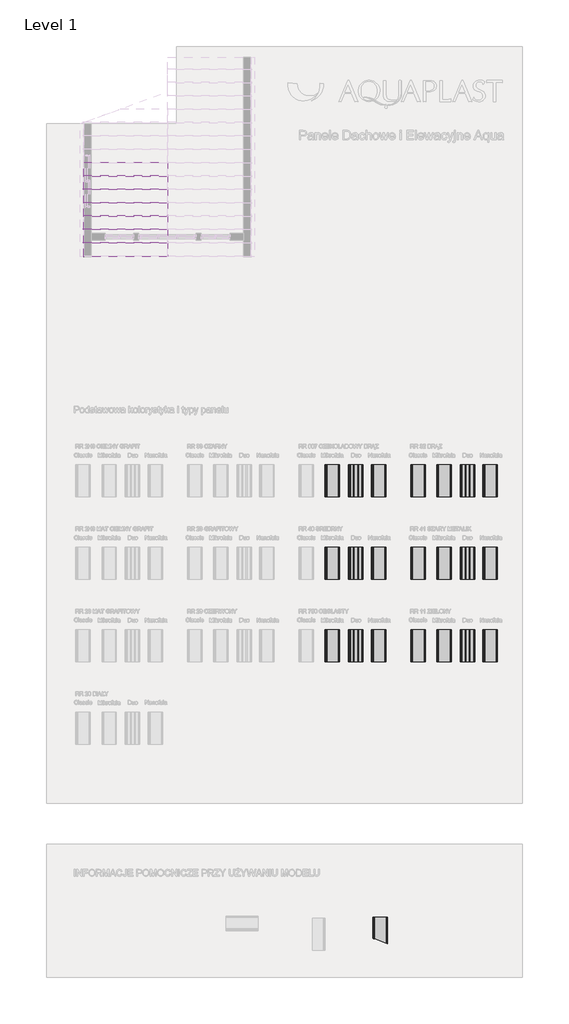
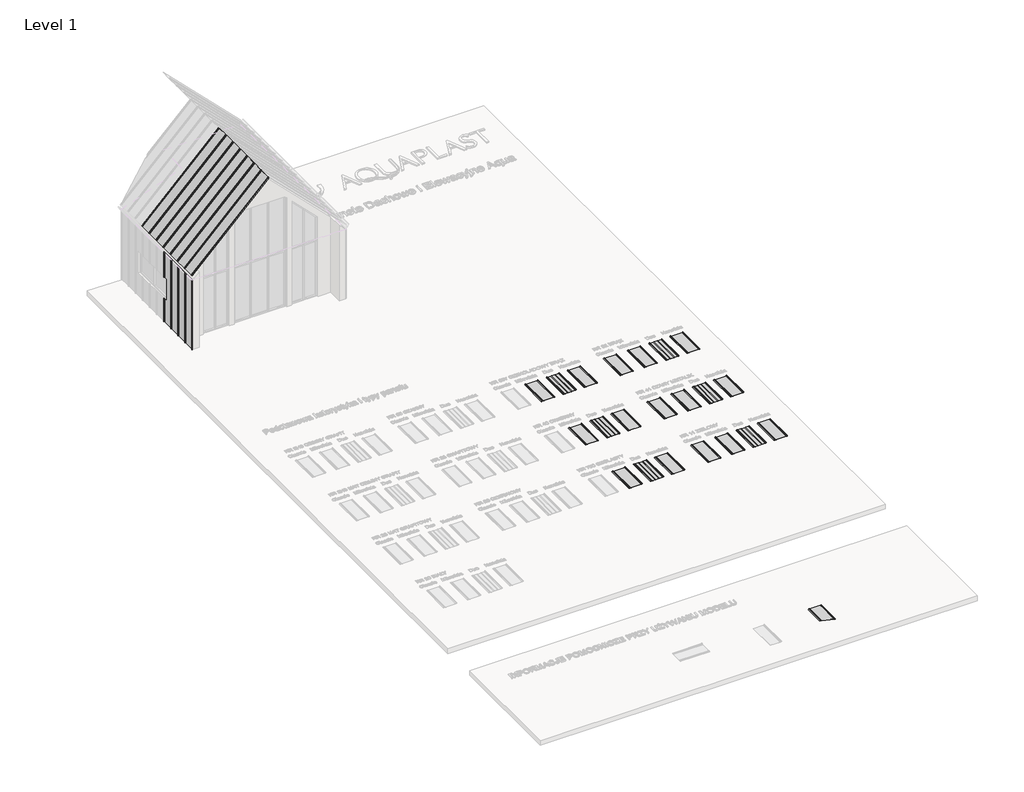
# One storey, part 3 of 22: 33 proxies.
"""IFC4 building model written with IfcOpenShell, lengths in millimetres."""

from ifc_helpers import new_model, si_unit, point, frame, frame_2d, origin, place, context, project, spatial, polyline, circle_curve, ellipse_curve, trimmed, segment, composite_curve, outline, extrude, transform, mapped, element, save
from ifc_brep_helpers import plane_surface, cylinder_surface, revolved_surface, advanced_brep
from components import aqua_8310e829, aqua_0aed9e76, aqua_69495d72, aqua_52c9d04e

model = new_model("IFC4")

# Units and contexts
model_context = context("Model", 3, world=origin())
ifc_project = project(units=[si_unit("LENGTHUNIT", "METRE", prefix="MILLI")], contexts=[model_context])

# Site, building, storey
site = spatial("IfcSite", under=ifc_project)
building = spatial("IfcBuilding", under=site)
storey = spatial("IfcBuildingStorey", under=building, Name="Level 1", Elevation=0.0)

# Proxies
placement = place(None, origin())
element("IfcBuildingElementProxy", 1, Name="AQUAPLAST - Panel Dachowy i Elewacyjny Aqua : Aqua", ObjectType="AQUAPLAST - Panel Dachowy i Elewacyjny Aqua : Aqua", at=placement, inside=storey, context=model_context, shape_type="SolidModel", body=[
    extrude(outline(polyline([(2515.0852627, -16163.9434845), (2947.2853129, -16163.9434845), (2947.2853129, -17144.9233629), (2515.0852627, -16987.6154093), (2515.0852627, -16163.9434845)])), frame((0.0, 0.0, 600.0), z_axis=(0.0, 0.0, 1.0), x_axis=(1.0, 0.0, 0.0)), (0.0, 0.0, 1.0), 0.8),
    advanced_brep(
    [(2947.2853129, -16163.9434845, 600.8), (2947.2853129, -16163.9434845, 600.0), (2947.2853129, -17144.9233629, 600.0), (2947.2853129, -17144.9233629, 600.8), (2986.1819902, -16163.9434845, 624.2006428), (2986.6832739, -16163.9434845, 623.6993591), (2986.6832739, -17159.2630479, 623.6993591), (2986.1819902, -17159.0805956, 624.2006428), (2974.8853129, -16163.9434845, 625.0), (2974.3853129, -16163.9434845, 624.5), (2974.3853129, -17154.7869562, 624.5), (2974.8853129, -17154.9689413, 625.0), (2986.6832739, -16163.9434845, 609.7850119), (2986.1755451, -16163.9434845, 608.9478642), (2986.1755451, -17159.0782498, 608.9478642), (2986.6832739, -17159.2630479, 609.7850119), (2986.7045053, -16163.9434845, 601.8403383), (2986.7045053, -17159.2707755, 601.8403383), (2975.1851476, -16163.9434845, 623.7003195), (2975.1851476, -16163.9434845, 601.2999699), (2974.6852378, -16163.9434845, 600.8000601), (2950.7853129, -16163.9434845, 600.8000601), (2950.7853129, -16163.9434845, 601.6), (2973.8853129, -16163.9434845, 601.6), (2974.3853129, -16163.9434845, 602.1), (2986.8853129, -16163.9434845, 625.0), (2987.3853129, -16163.9434845, 624.5), (2987.3853129, -16163.9434845, 608.8039223), (2986.7045053, -16163.9434845, 608.1289934), (2986.7045053, -16163.9434845, 602.6405793), (2975.6854708, -16163.9434845, 624.2006428), (2950.7853129, -17146.1972587, 601.6), (2973.8853129, -17154.6049711, 601.6), (2950.7853129, -17146.1972587, 600.8000601), (2974.6852378, -17154.8961199, 600.8000601), (2975.1851476, -17155.0780722, 623.7003195), (2975.1851476, -17155.0780722, 601.2999699), (2975.6854708, -17155.260175, 624.2006428), (2986.7045053, -17159.2707755, 602.6405793), (2987.3853129, -17159.5185693, 624.5), (2987.3853129, -17159.5185693, 608.8039223), (2986.8853129, -17159.3365841, 625.0), (2974.3853129, -17154.7869562, 602.1), (2986.7045053, -17159.2707755, 608.1289934)],
    [
        (0, 1),
        (1, 2),
        (2, 3),
        (3, 0),
        (4, 5, circle_curve(frame((2986.1819902, -16163.9434845, 623.6993591), z_axis=(0.0, 1.0, 0.0), x_axis=(-1.0, 0.0, 0.0)), 0.5012837)),
        (5, 6),
        (6, 7, ellipse_curve(frame((2986.1819902, -17159.0805956, 623.6993591), z_axis=(-0.3420201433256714, -0.9396926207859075, 0.0), x_axis=(-0.9396926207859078, 0.3420201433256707, 0.0)), 0.533455, 0.5012837)),
        (7, 4),
        (8, 9, circle_curve(frame((2974.8853129, -16163.9434845, 624.5), z_axis=(0.0, -1.0, 0.0), x_axis=(-1.0, 0.0, 0.0)), 0.5)),
        (9, 10),
        (10, 11, ellipse_curve(frame((2974.8853129, -17154.9689413, 624.5), z_axis=(0.3420201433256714, 0.9396926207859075, 0.0), x_axis=(0.9396926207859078, -0.3420201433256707, 0.0)), 0.5320889, 0.5)),
        (11, 8),
        (12, 13, circle_curve(frame((2985.7392614, -16163.9434845, 609.7850119), z_axis=(0.0, 1.0, 0.0), x_axis=(-1.0, 0.0, 0.0)), 0.9440125)),
        (13, 14),
        (14, 15, ellipse_curve(frame((2985.7392614, -17158.9194555, 609.7850119), z_axis=(-0.3420201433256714, -0.9396926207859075, 0.0), x_axis=(-0.9396926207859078, 0.3420201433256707, 0.0)), 1.0045972, 0.9440125)),
        (15, 12),
        (13, 16, circle_curve(frame((2986.7045053, -16163.9434845, 605.4137846), z_axis=(0.0, -1.0, 0.0), x_axis=(-1.0, 0.0, 0.0)), 3.5734462)),
        (16, 17),
        (17, 14, ellipse_curve(frame((2986.7045053, -17159.2707755, 605.4137846), z_axis=(0.3420201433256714, 0.9396926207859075, 0.0), x_axis=(0.9396926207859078, -0.3420201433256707, 0.0)), 3.802782, 3.5734462)),
        (18, 19),
        (19, 20, circle_curve(frame((2974.6852378, -16163.9434845, 601.2999699), z_axis=(0.0, 1.0, 0.0), x_axis=(-1.0, 0.0, 0.0)), 0.4999098)),
        (20, 21),
        (21, 1),
        (0, 22),
        (22, 23),
        (23, 24, circle_curve(frame((2973.8853129, -16163.9434845, 602.1), z_axis=(0.0, -1.0, 0.0), x_axis=(-1.0, 0.0, 0.0)), 0.5)),
        (24, 9),
        (8, 25),
        (25, 26, circle_curve(frame((2986.8853129, -16163.9434845, 624.5), z_axis=(0.0, 1.0, 0.0), x_axis=(-1.0, 0.0, 0.0)), 0.5)),
        (26, 27),
        (27, 28, circle_curve(frame((2986.7103586, -16163.9434845, 608.8039223), z_axis=(0.0, 1.0, 0.0), x_axis=(-1.0, 0.0, 0.0)), 0.6749543)),
        (28, 29, circle_curve(frame((2986.7045053, -16163.9434845, 605.3847863), z_axis=(0.0, -1.0, 0.0), x_axis=(-1.0, 0.0, 0.0)), 2.7442071)),
        (29, 16),
        (12, 5),
        (4, 30),
        (30, 18, circle_curve(frame((2975.6854708, -16163.9434845, 623.7003195), z_axis=(0.0, -1.0, 0.0), x_axis=(-1.0, 0.0, 0.0)), 0.5003233)),
        (22, 31),
        (31, 32),
        (32, 23),
        (3, 31),
        (21, 33),
        (33, 2),
        (20, 34),
        (34, 33),
        (18, 35),
        (35, 36),
        (36, 19),
        (7, 37),
        (37, 30),
        (15, 6),
        (29, 38),
        (38, 17),
        (26, 39),
        (39, 40),
        (40, 27),
        (11, 41),
        (41, 25),
        (24, 42),
        (42, 10),
        (36, 34, ellipse_curve(frame((2974.6852378, -17154.8961199, 601.2999699), z_axis=(0.3420201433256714, 0.9396926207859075, 0.0), x_axis=(0.9396926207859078, -0.3420201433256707, 0.0)), 0.5319929, 0.4999098)),
        (37, 35, ellipse_curve(frame((2975.6854708, -17155.260175, 623.7003195), z_axis=(-0.3420201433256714, -0.9396926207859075, 0.0), x_axis=(-0.9396926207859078, 0.3420201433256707, 0.0)), 0.5324329, 0.5003233)),
        (41, 39, ellipse_curve(frame((2986.8853129, -17159.3365841, 624.5), z_axis=(0.3420201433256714, 0.9396926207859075, 0.0), x_axis=(0.9396926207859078, -0.3420201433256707, 0.0)), 0.5320889, 0.5)),
        (32, 42, ellipse_curve(frame((2973.8853129, -17154.6049711, 602.1), z_axis=(-0.3420201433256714, -0.9396926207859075, 0.0), x_axis=(-0.9396926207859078, 0.3420201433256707, 0.0)), 0.5320889, 0.5)),
        (28, 43),
        (43, 38, ellipse_curve(frame((2986.7045053, -17159.2707755, 605.3847863), z_axis=(-0.3420201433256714, -0.9396926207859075, 0.0), x_axis=(-0.9396926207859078, 0.3420201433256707, 0.0)), 2.9203242, 2.7442071)),
        (40, 43, ellipse_curve(frame((2986.7103586, -17159.272906, 608.8039223), z_axis=(0.3420201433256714, 0.9396926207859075, 0.0), x_axis=(0.9396926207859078, -0.3420201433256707, 0.0)), 0.7182714, 0.6749543)),
    ],
    [
        plane_surface(frame((2947.2853129, -17363.9434845, 600.8), z_axis=(-1.0, 0.0, 0.0), x_axis=(0.0, 1.0, 0.0))),
        revolved_surface(polyline([(2985.6807065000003, -16163.9434845, 623.6993591), (2985.6807065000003, -17159.26304795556, 623.6993591)]), (2986.1819902, -17363.9434845, 623.6993591), (0.0, 1.0, 0.0)),
        cylinder_surface(frame((2974.8853129, -17363.9434845, 624.5), z_axis=(0.0, -1.0, 0.0), x_axis=(-1.0, 0.0, 0.0)), 0.5),
        revolved_surface(polyline([(2984.7952489, -16163.9434845, 609.7850119), (2984.7952489, -17159.26304797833, 609.7850119)]), (2985.7392614, -17363.9434845, 609.7850119), (0.0, 1.0, 0.0)),
        cylinder_surface(frame((2986.7045053, -17363.9434845, 605.4137846), z_axis=(0.0, -1.0, 0.0), x_axis=(-1.0, 0.0, 0.0)), 3.5734462),
        plane_surface(frame((2987.3853129, -16163.9434845, 600.0), z_axis=(0.0, 1.0, 0.0), x_axis=(0.0, 0.0, 1.0))),
        plane_surface(frame((2973.8853129, -17363.9434845, 601.6), z_axis=(0.0, 0.0, 1.0), x_axis=(0.0, 1.0, 0.0))),
        plane_surface(frame((2950.7853129, -17363.9434845, 601.6), z_axis=(-0.22282480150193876, 0.0, 0.9748585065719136), x_axis=(0.0, 1.0, 0.0))),
        plane_surface(frame((2947.2853129, -17363.9434845, 600.0), z_axis=(0.22284072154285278, 0.0, -0.9748548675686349), x_axis=(0.0, 1.0, 0.0))),
        plane_surface(frame((2950.7853129, -17363.9434845, 600.8000601), z_axis=(0.0, 0.0, -1.0), x_axis=(0.0, 1.0, 0.0))),
        plane_surface(frame((2975.1851476, -17363.9434845, 601.2999699), z_axis=(1.0, 0.0, 0.0), x_axis=(0.0, 1.0, 0.0))),
        plane_surface(frame((2975.6854708, -17363.9434845, 624.2006428), z_axis=(0.0, 0.0, -1.0), x_axis=(0.0, 1.0, 0.0))),
        plane_surface(frame((2986.6832739, -17363.9434845, 623.6993591), z_axis=(-1.0, 0.0, 0.0), x_axis=(0.0, 1.0, 0.0))),
        plane_surface(frame((2986.7045053, -17363.9434845, 601.8403383), z_axis=(1.0, 0.0, 0.0), x_axis=(0.0, 1.0, 0.0))),
        plane_surface(frame((2987.3853129, -17363.9434845, 608.8039223), z_axis=(1.0, 0.0, 0.0), x_axis=(0.0, 1.0, 0.0))),
        plane_surface(frame((2986.8853129, -17363.9434845, 625.0), z_axis=(0.0, 0.0, 1.0), x_axis=(0.0, 1.0, 0.0))),
        plane_surface(frame((2974.3853129, -17363.9434845, 624.5), z_axis=(-1.0, 0.0, 0.0), x_axis=(0.0, 1.0, 0.0))),
        cylinder_surface(frame((2974.6852378, -17363.9434845, 601.2999699), z_axis=(0.0, -1.0, 0.0), x_axis=(-1.0, 0.0, 0.0)), 0.4999098),
        revolved_surface(polyline([(2975.1851475, -16163.9434845, 623.7003195), (2975.1851475, -17155.44227777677, 623.7003195)]), (2975.6854708, -17363.9434845, 623.7003195), (0.0, 1.0, 0.0)),
        cylinder_surface(frame((2986.8853129, -17363.9434845, 624.5), z_axis=(0.0, -1.0, 0.0), x_axis=(-1.0, 0.0, 0.0)), 0.5),
        revolved_surface(polyline([(2973.3853129, -16163.9434845, 602.1), (2973.3853129, -17154.78695622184, 602.1)]), (2973.8853129, -17363.9434845, 602.1), (0.0, 1.0, 0.0)),
        revolved_surface(polyline([(2983.9602982, -16163.9434845, 605.3847863), (2983.9602982, -17160.269585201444, 605.3847863)]), (2986.7045053, -17363.9434845, 605.3847863), (0.0, 1.0, 0.0)),
        cylinder_surface(frame((2986.7103586, -17363.9434845, 608.8039223), z_axis=(0.0, -1.0, 0.0), x_axis=(-1.0, 0.0, 0.0)), 0.6749543),
        plane_surface(frame((2987.3853129, -17159.5185693, 998.0), z_axis=(-0.3420201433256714, -0.9396926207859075, 0.0), x_axis=(0.0, 0.0, -1.0))),
    ],
    [
        (0, [[1, 2, 3, 4]]),
        (1, [[5, 6, 7, 8]]),
        (2, [[9, 10, 11, 12]]),
        (3, [[13, 14, 15, 16]]),
        (4, [[17, 18, 19, -14]]),
        (5, [[20, 21, 22, 23, -1, 24, 25, 26, 27, -9, 28, 29, 30, 31, 32, 33, -17, -13, 34, -5, 35, 36]]),
        (6, [[-25, 37, 38, 39]]),
        (7, [[-24, -4, 40, -37]]),
        (8, [[-23, 41, 42, -2]]),
        (9, [[-22, 43, 44, -41]]),
        (10, [[-20, 45, 46, 47]]),
        (11, [[-35, -8, 48, 49]]),
        (12, [[-34, -16, 50, -6]]),
        (13, [[-33, 51, 52, -18]]),
        (14, [[-30, 53, 54, 55]]),
        (15, [[-28, -12, 56, 57]]),
        (16, [[-27, 58, 59, -10]]),
        (17, [[-21, -47, 60, -43]]),
        (18, [[-36, -49, 61, -45]]),
        (19, [[-29, -57, 62, -53]]),
        (20, [[-26, -39, 63, -58]]),
        (21, [[-32, 64, 65, -51]]),
        (22, [[-31, -55, 66, -64]]),
        (23, [[-3, -42, -44, -60, -46, -61, -48, -7, -50, -15, -19, -52, -65, -66, -54, -62, -56, -11, -59, -63, -38, -40]]),
    ],
),
    advanced_brep(
    [(2442.3853129, -16163.9434845, 600.8), (2472.7644009, -16163.9434845, 600.8), (2473.4186214, -16163.9434845, 601.3501315), (2476.4515781, -16163.9434845, 618.7653554), (2481.4387764, -16163.9434845, 619.5352298), (2484.3990366, -16163.9434845, 612.1941629), (2483.1043996, -16163.9434845, 609.0024093), (2484.6698354, -16163.9434845, 601.6), (2511.5852627, -16163.9434845, 601.6), (2515.0852627, -16163.9434845, 600.8), (2515.0852627, -16163.9434845, 600.0), (2511.5852627, -16163.9434845, 600.8), (2484.8290109, -16163.9434845, 600.8), (2482.8186837, -16163.9434845, 609.7513874), (2483.6577197, -16163.9434845, 611.8934079), (2480.7459561, -16163.9434845, 619.1352298), (2477.2114432, -16163.9434845, 618.4803326), (2474.3814438, -16163.9434845, 600.6241817), (2473.6505457, -16163.9434845, 600.0), (2442.3853129, -16163.9434845, 600.0), (2442.3853129, -16961.1547916, 600.0), (2442.3853129, -16961.1547916, 600.8), (2473.6505457, -16972.5344057, 600.0), (2511.5852627, -16986.3415135, 600.8), (2484.8290109, -16976.6030343, 600.8), (2515.0852627, -16987.6154093, 600.0), (2515.0852627, -16987.6154093, 600.8), (2511.5852627, -16986.3415135, 601.6), (2484.6698354, -16976.5450991, 601.6), (2472.7644009, -16972.2118754, 600.8), (2480.7459561, -16975.1169238, 619.1352298), (2477.2114432, -16973.8304664, 618.4803326), (2482.8186837, -16975.871335, 609.7513874), (2483.6577197, -16976.1767192, 611.8934079), (2484.3990366, -16976.4465364, 612.1941629), (2483.1043996, -16975.9753271, 609.0024093), (2476.4515781, -16973.5538981, 618.7653554), (2481.4387764, -16975.3690898, 619.5352298), (2474.3814438, -16972.8004308, 600.6241817), (2473.4186214, -16972.4499921, 601.3501315)],
    [
        (0, 1),
        (1, 2, circle_curve(frame((2472.7644009, -16163.9434845, 601.4640676), z_axis=(0.0, -1.0, 0.0), x_axis=(-1.0, 0.0, 0.0)), 0.6640676)),
        (2, 3),
        (3, 4, circle_curve(frame((2479.094674, -16163.9434845, 618.1818617), z_axis=(0.0, 1.0, 0.0), x_axis=(-1.0, 0.0, 0.0)), 2.7067363)),
        (4, 5),
        (5, 6, circle_curve(frame((2482.1014472, -16163.9434845, 611.2676679), z_axis=(0.0, 1.0, 0.0), x_axis=(-1.0, 0.0, 0.0)), 2.4773594)),
        (6, 7, circle_curve(frame((2484.6698354, -16163.9434845, 605.4667311), z_axis=(0.0, -1.0, 0.0), x_axis=(-1.0, 0.0, 0.0)), 3.8667311)),
        (7, 8),
        (8, 9),
        (9, 10),
        (10, 11),
        (11, 12),
        (12, 13, circle_curve(frame((2484.8290109, -16163.9434845, 605.5014361), z_axis=(0.0, 1.0, 0.0), x_axis=(-1.0, 0.0, 0.0)), 4.7014361)),
        (13, 14, circle_curve(frame((2482.1014472, -16163.9434845, 611.2676679), z_axis=(0.0, -1.0, 0.0), x_axis=(-1.0, 0.0, 0.0)), 1.6773594)),
        (14, 15),
        (15, 16, circle_curve(frame((2479.094674, -16163.9434845, 618.1818617), z_axis=(0.0, -1.0, 0.0), x_axis=(-1.0, 0.0, 0.0)), 1.9067363)),
        (16, 17),
        (17, 18, circle_curve(frame((2473.6505457, -16163.9434845, 600.7400208), z_axis=(0.0, 1.0, 0.0), x_axis=(-1.0, 0.0, 0.0)), 0.7400208)),
        (18, 19),
        (19, 0),
        (19, 20),
        (20, 21),
        (21, 0),
        (18, 22),
        (22, 20),
        (11, 23),
        (23, 24),
        (24, 12),
        (10, 25),
        (25, 23),
        (9, 26),
        (26, 25),
        (8, 27),
        (27, 26),
        (7, 28),
        (28, 27),
        (21, 29),
        (29, 1),
        (15, 30),
        (30, 31, ellipse_curve(frame((2479.094674, -16974.5159063, 618.1818617), z_axis=(-0.3420201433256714, -0.9396926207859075, 0.0), x_axis=(-0.9396926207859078, 0.3420201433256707, 0.0)), 2.0291063, 1.9067363)),
        (31, 16),
        (13, 32),
        (32, 33, ellipse_curve(frame((2482.1014472, -16975.6102823, 611.2676679), z_axis=(-0.3420201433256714, -0.9396926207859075, 0.0), x_axis=(-0.9396926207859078, 0.3420201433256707, 0.0)), 1.7850086, 1.6773594)),
        (33, 14),
        (5, 34),
        (34, 35, ellipse_curve(frame((2482.1014472, -16975.6102823, 611.2676679), z_axis=(0.3420201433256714, 0.9396926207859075, 0.0), x_axis=(0.9396926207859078, -0.3420201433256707, 0.0)), 2.6363508, 2.4773594)),
        (35, 6),
        (3, 36),
        (36, 37, ellipse_curve(frame((2479.094674, -16974.5159063, 618.1818617), z_axis=(0.3420201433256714, 0.9396926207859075, 0.0), x_axis=(0.9396926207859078, -0.3420201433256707, 0.0)), 2.8804486, 2.7067363)),
        (37, 4),
        (17, 38),
        (38, 22, ellipse_curve(frame((2473.6505457, -16972.5344057, 600.7400208), z_axis=(0.3420201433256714, 0.9396926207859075, 0.0), x_axis=(0.9396926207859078, -0.3420201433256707, 0.0)), 0.7875137, 0.7400208)),
        (31, 38),
        (33, 30),
        (24, 32, ellipse_curve(frame((2484.8290109, -16976.6030343, 605.5014361), z_axis=(0.3420201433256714, 0.9396926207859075, 0.0), x_axis=(0.9396926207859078, -0.3420201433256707, 0.0)), 5.0031638, 4.7014361)),
        (35, 28, ellipse_curve(frame((2484.6698354, -16976.5450991, 605.4667311), z_axis=(-0.3420201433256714, -0.9396926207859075, 0.0), x_axis=(-0.9396926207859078, 0.3420201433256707, 0.0)), 4.1148893, 3.8667311)),
        (37, 34),
        (2, 39),
        (39, 36),
        (29, 39, ellipse_curve(frame((2472.7644009, -16972.2118754, 601.4640676), z_axis=(-0.3420201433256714, -0.9396926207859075, 0.0), x_axis=(-0.9396926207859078, 0.3420201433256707, 0.0)), 0.706686, 0.6640676)),
    ],
    [
        plane_surface(frame((2442.3853129, -16163.9434845, 600.0), z_axis=(0.0, 1.0, 0.0), x_axis=(0.0, 0.0, 1.0))),
        plane_surface(frame((2442.3853129, -17363.9434845, 600.8), z_axis=(-1.0, 0.0, 0.0), x_axis=(0.0, 1.0, 0.0))),
        plane_surface(frame((2442.3853129, -17363.9434845, 600.0), z_axis=(0.0, 0.0, -1.0), x_axis=(0.0, 1.0, 0.0))),
        plane_surface(frame((2484.8290109, -17363.9434845, 600.8), z_axis=(0.0, 0.0, -1.0), x_axis=(0.0, 1.0, 0.0))),
        plane_surface(frame((2511.5852627, -17363.9434845, 600.8), z_axis=(-0.2228248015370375, 0.0, -0.974858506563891), x_axis=(0.0, 1.0, 0.0))),
        plane_surface(frame((2515.0852627, -17363.9434845, 600.0), z_axis=(1.0, 0.0, 0.0), x_axis=(0.0, 1.0, 0.0))),
        plane_surface(frame((2515.0852627, -17363.9434845, 600.8), z_axis=(0.22282480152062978, 0.0, 0.9748585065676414), x_axis=(0.0, 1.0, 0.0))),
        plane_surface(frame((2511.5852627, -17363.9434845, 601.6), z_axis=(0.0, 0.0, 1.0), x_axis=(0.0, 1.0, 0.0))),
        plane_surface(frame((2472.7644009, -17363.9434845, 600.8), z_axis=(0.0, 0.0, 1.0), x_axis=(0.0, 1.0, 0.0))),
        revolved_surface(polyline([(2477.1879377, -16163.9434845, 618.1818617), (2477.1879377, -16975.20990152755, 618.1818617)]), (2479.094674, -17363.9434845, 618.1818617), (0.0, 1.0, 0.0)),
        revolved_surface(polyline([(2480.4240878, -16163.9434845, 611.2676679), (2480.4240878, -16976.22079119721, 611.2676679)]), (2482.1014472, -17363.9434845, 611.2676679), (0.0, 1.0, 0.0)),
        cylinder_surface(frame((2482.1014472, -17363.9434845, 611.2676679), z_axis=(0.0, -1.0, 0.0), x_axis=(-1.0, 0.0, 0.0)), 2.4773594),
        cylinder_surface(frame((2479.094674, -17363.9434845, 618.1818617), z_axis=(0.0, -1.0, 0.0), x_axis=(-1.0, 0.0, 0.0)), 2.7067363),
        cylinder_surface(frame((2473.6505457, -17363.9434845, 600.7400208), z_axis=(0.0, -1.0, 0.0), x_axis=(-1.0, 0.0, 0.0)), 0.7400208),
        plane_surface(frame((2474.3814438, -17363.9434845, 600.6241817), z_axis=(0.9876724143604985, 0.0, -0.1565349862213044), x_axis=(0.0, 1.0, 0.0))),
        plane_surface(frame((2480.7459561, -17363.9434845, 619.1352298), z_axis=(-0.9278109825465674, 0.0, -0.3730506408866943), x_axis=(0.0, 1.0, 0.0))),
        cylinder_surface(frame((2484.8290109, -17363.9434845, 605.5014361), z_axis=(0.0, -1.0, 0.0), x_axis=(-1.0, 0.0, 0.0)), 4.7014361),
        revolved_surface(polyline([(2480.8031043, -16163.9434845, 605.4667311), (2480.8031043, -16977.952474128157, 605.4667311)]), (2484.6698354, -17363.9434845, 605.4667311), (0.0, 1.0, 0.0)),
        plane_surface(frame((2484.3990366, -17363.9434845, 612.1941629), z_axis=(0.9274347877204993, 0.0, 0.3739849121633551), x_axis=(0.0, 1.0, 0.0))),
        plane_surface(frame((2476.4515781, -17363.9434845, 618.7653554), z_axis=(-0.985171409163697, 0.0, 0.17157300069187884), x_axis=(0.0, 1.0, 0.0))),
        revolved_surface(polyline([(2472.1003333, -16163.9434845, 601.4640676), (2472.1003333, -16972.453576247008, 601.4640676)]), (2472.7644009, -17363.9434845, 601.4640676), (0.0, 1.0, 0.0)),
        plane_surface(frame((2987.3853129, -17159.5185693, 998.0), z_axis=(-0.3420201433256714, -0.9396926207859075, 0.0), x_axis=(0.0, 0.0, -1.0))),
    ],
    [
        (0, [[1, 2, 3, 4, 5, 6, 7, 8, 9, 10, 11, 12, 13, 14, 15, 16, 17, 18, 19, 20]]),
        (1, [[-20, 21, 22, 23]]),
        (2, [[-19, 24, 25, -21]]),
        (3, [[-12, 26, 27, 28]]),
        (4, [[-11, 29, 30, -26]]),
        (5, [[-10, 31, 32, -29]]),
        (6, [[-9, 33, 34, -31]]),
        (7, [[-8, 35, 36, -33]]),
        (8, [[-1, -23, 37, 38]]),
        (9, [[-16, 39, 40, 41]]),
        (10, [[-14, 42, 43, 44]]),
        (11, [[-6, 45, 46, 47]]),
        (12, [[-4, 48, 49, 50]]),
        (13, [[-18, 51, 52, -24]]),
        (14, [[-17, -41, 53, -51]]),
        (15, [[-15, -44, 54, -39]]),
        (16, [[-13, -28, 55, -42]]),
        (17, [[-7, -47, 56, -35]]),
        (18, [[-5, -50, 57, -45]]),
        (19, [[-3, 58, 59, -48]]),
        (20, [[-2, -38, 60, -58]]),
        (21, [[-22, -25, -52, -53, -40, -54, -43, -55, -27, -30, -32, -34, -36, -56, -46, -57, -49, -59, -60, -37]]),
    ],
),
])
element("IfcBuildingElementProxy", 2, Name="AQUAPLAST - Panel Dachowy i Elewacyjny Aqua : Aqua", ObjectType="AQUAPLAST - Panel Dachowy i Elewacyjny Aqua : Aqua", at=placement, inside=storey, context=model_context, shape_type="SweptSolid", body=[
    extrude(outline(polyline([(10210.1494801, 3613.0), (10642.3495304, 3613.0), (10642.3495304, 2520.0), (10504.7302878, 2520.0), (10504.7302878, 1598.0), (10642.3495304, 1598.0), (10642.3495304, 600.0), (10210.1494801, 600.0), (10210.1494801, 3613.0)])), frame((-8422.863183, 0.0, 0.0), z_axis=(1.0, 0.0, 0.0), x_axis=(0.0, 1.0, 0.0)), (0.0, 0.0, 1.0), 0.8),
    extrude(outline(composite_curve([segment(polyline([(-8423.663183, 10206.6494801), (-8422.863183, 10210.1494801), (-8422.063183, 10210.1494801), (-8422.8632432, 10206.6494801), (-8422.8632432, 10182.7495553)]), True, "CONTINUOUS"), segment(trimmed(circle_curve(frame_2d((-8423.363153, 10182.7495553)), 0.4999098), [point((-8422.8632432, 10182.7495553))], [point((-8423.363153, 10182.2496455))], False, "CARTESIAN"), True, "CONTINUOUS"), segment(polyline([(-8423.363153, 10182.2496455), (-8445.7635025, 10182.2496455)]), True, "CONTINUOUS"), segment(trimmed(circle_curve(frame_2d((-8445.7635025, 10181.7493222)), 0.5003233), [point((-8445.7635025, 10182.2496455))], [point((-8446.2638258, 10181.7493222))], True, "CARTESIAN"), True, "CONTINUOUS"), segment(polyline([(-8446.2638258, 10181.7493222), (-8446.2638258, 10171.2528028)]), True, "CONTINUOUS"), segment(trimmed(circle_curve(frame_2d((-8445.7625421, 10171.2528028)), 0.5012837), [point((-8446.2638258, 10171.2528028))], [point((-8445.7625421, 10170.7515191))], True, "CARTESIAN"), True, "CONTINUOUS"), segment(polyline([(-8445.7625421, 10170.7515191), (-8431.8481949, 10170.7515191)]), True, "CONTINUOUS"), segment(trimmed(circle_curve(frame_2d((-8431.8481949, 10171.6955317)), 0.9440125), [point((-8431.8481949, 10170.7515191))], [point((-8431.0110473, 10171.259248))], True, "CARTESIAN"), True, "CONTINUOUS"), segment(trimmed(circle_curve(frame_2d((-8427.4769676, 10170.7302878)), 3.5734462), [point((-8431.0110473, 10171.259248))], [point((-8423.9035214, 10170.7302878))], False, "CARTESIAN"), True, "CONTINUOUS"), segment(polyline([(-8423.9035214, 10170.7302878), (-8424.7037623, 10170.7302878)]), True, "CONTINUOUS"), segment(trimmed(circle_curve(frame_2d((-8427.4479694, 10170.7302878)), 2.7442071), [point((-8424.7037623, 10170.7302878))], [point((-8430.1921764, 10170.7302878))], True, "CARTESIAN"), True, "CONTINUOUS"), segment(trimmed(circle_curve(frame_2d((-8430.8671054, 10170.7244344)), 0.6749543), [point((-8430.1921764, 10170.7302878))], [point((-8430.8671054, 10170.0494801))], False, "CARTESIAN"), True, "CONTINUOUS"), segment(polyline([(-8430.8671054, 10170.0494801), (-8446.563183, 10170.0494801)]), True, "CONTINUOUS"), segment(trimmed(circle_curve(frame_2d((-8446.563183, 10170.5494801)), 0.5), [point((-8446.563183, 10170.0494801))], [point((-8447.063183, 10170.5494801))], False, "CARTESIAN"), True, "CONTINUOUS"), segment(polyline([(-8447.063183, 10170.5494801), (-8447.063183, 10182.5494801)]), True, "CONTINUOUS"), segment(trimmed(circle_curve(frame_2d((-8446.563183, 10182.5494801)), 0.5), [point((-8447.063183, 10182.5494801))], [point((-8446.563183, 10183.0494801))], False, "CARTESIAN"), True, "CONTINUOUS"), segment(polyline([(-8446.563183, 10183.0494801), (-8424.163183, 10183.0494801)]), True, "CONTINUOUS"), segment(trimmed(circle_curve(frame_2d((-8424.163183, 10183.5494801)), 0.5), [point((-8424.163183, 10183.0494801))], [point((-8423.663183, 10183.5494801))], True, "CARTESIAN"), True, "CONTINUOUS"), segment(polyline([(-8423.663183, 10183.5494801), (-8423.663183, 10206.6494801)]), True, "CONTINUOUS")], self_intersect=False)), frame((0.0, 0.0, 600.0), z_axis=(0.0, 0.0, 1.0), x_axis=(1.0, 0.0, 0.0)), (0.0, 0.0, 1.0), 3013.0),
    extrude(outline(composite_curve([segment(polyline([(-8422.863183, 10715.0494801), (-8422.063183, 10715.0494801), (-8422.063183, 10683.7842474)]), True, "CONTINUOUS"), segment(trimmed(circle_curve(frame_2d((-8422.8032039, 10683.7842474)), 0.7400208), [point((-8422.063183, 10683.7842474))], [point((-8422.6873647, 10683.0533492))], False, "CARTESIAN"), True, "CONTINUOUS"), segment(polyline([(-8422.6873647, 10683.0533492), (-8440.5435157, 10680.2233498)]), True, "CONTINUOUS"), segment(trimmed(circle_curve(frame_2d((-8440.2450447, 10678.340119)), 1.9067363), [point((-8440.5435157, 10680.2233498))], [point((-8441.1984129, 10676.688837))], True, "CARTESIAN"), True, "CONTINUOUS"), segment(polyline([(-8441.1984129, 10676.688837), (-8433.9565909, 10673.7770733)]), True, "CONTINUOUS"), segment(trimmed(circle_curve(frame_2d((-8433.3308509, 10675.3333458)), 1.6773594), [point((-8433.9565909, 10673.7770733))], [point((-8431.8145704, 10674.6161094))], True, "CARTESIAN"), True, "CONTINUOUS"), segment(trimmed(circle_curve(frame_2d((-8427.5646191, 10672.6057822)), 4.7014361), [point((-8431.8145704, 10674.6161094))], [point((-8422.863183, 10672.6057822))], False, "CARTESIAN"), True, "CONTINUOUS"), segment(polyline([(-8422.863183, 10672.6057822), (-8422.863183, 10645.8495304), (-8422.063183, 10642.3495304), (-8422.863183, 10642.3495304), (-8423.663183, 10645.8495304), (-8423.663183, 10672.7649576)]), True, "CONTINUOUS"), segment(trimmed(circle_curve(frame_2d((-8427.5299142, 10672.7649576)), 3.8667311), [point((-8423.663183, 10672.7649576))], [point((-8431.0655924, 10674.3303934))], True, "CARTESIAN"), True, "CONTINUOUS"), segment(trimmed(circle_curve(frame_2d((-8433.3308509, 10675.3333458)), 2.4773594), [point((-8431.0655924, 10674.3303934))], [point((-8434.257346, 10673.0357565))], False, "CARTESIAN"), True, "CONTINUOUS"), segment(polyline([(-8434.257346, 10673.0357565), (-8441.5984129, 10675.9960166)]), True, "CONTINUOUS"), segment(trimmed(circle_curve(frame_2d((-8440.2450447, 10678.340119)), 2.7067363), [point((-8441.5984129, 10675.9960166))], [point((-8440.8285384, 10680.983215))], False, "CARTESIAN"), True, "CONTINUOUS"), segment(polyline([(-8440.8285384, 10680.983215), (-8423.4133146, 10684.0161717)]), True, "CONTINUOUS"), segment(trimmed(circle_curve(frame_2d((-8423.5272506, 10684.6703921)), 0.6640676), [point((-8423.4133146, 10684.0161717))], [point((-8422.863183, 10684.6703921))], True, "CARTESIAN"), True, "CONTINUOUS"), segment(polyline([(-8422.863183, 10684.6703921), (-8422.863183, 10715.0494801)]), True, "CONTINUOUS")], self_intersect=False)), frame((0.0, 0.0, 2520.0), z_axis=(0.0, 0.0, 1.0), x_axis=(1.0, 0.0, 0.0)), (0.0, 0.0, 1.0), 1093.0),
    extrude(outline(composite_curve([segment(polyline([(-8422.863183, 10715.0494801), (-8422.063183, 10715.0494801), (-8422.063183, 10683.7842474)]), True, "CONTINUOUS"), segment(trimmed(circle_curve(frame_2d((-8422.8032039, 10683.7842474)), 0.7400208), [point((-8422.063183, 10683.7842474))], [point((-8422.6873647, 10683.0533492))], False, "CARTESIAN"), True, "CONTINUOUS"), segment(polyline([(-8422.6873647, 10683.0533492), (-8440.5435157, 10680.2233498)]), True, "CONTINUOUS"), segment(trimmed(circle_curve(frame_2d((-8440.2450447, 10678.340119)), 1.9067363), [point((-8440.5435157, 10680.2233498))], [point((-8441.1984129, 10676.688837))], True, "CARTESIAN"), True, "CONTINUOUS"), segment(polyline([(-8441.1984129, 10676.688837), (-8433.9565909, 10673.7770733)]), True, "CONTINUOUS"), segment(trimmed(circle_curve(frame_2d((-8433.3308509, 10675.3333458)), 1.6773594), [point((-8433.9565909, 10673.7770733))], [point((-8431.8145704, 10674.6161094))], True, "CARTESIAN"), True, "CONTINUOUS"), segment(trimmed(circle_curve(frame_2d((-8427.5646191, 10672.6057822)), 4.7014361), [point((-8431.8145704, 10674.6161094))], [point((-8422.863183, 10672.6057822))], False, "CARTESIAN"), True, "CONTINUOUS"), segment(polyline([(-8422.863183, 10672.6057822), (-8422.863183, 10645.8495304), (-8422.063183, 10642.3495304), (-8422.863183, 10642.3495304), (-8423.663183, 10645.8495304), (-8423.663183, 10672.7649576)]), True, "CONTINUOUS"), segment(trimmed(circle_curve(frame_2d((-8427.5299142, 10672.7649576)), 3.8667311), [point((-8423.663183, 10672.7649576))], [point((-8431.0655924, 10674.3303934))], True, "CARTESIAN"), True, "CONTINUOUS"), segment(trimmed(circle_curve(frame_2d((-8433.3308509, 10675.3333458)), 2.4773594), [point((-8431.0655924, 10674.3303934))], [point((-8434.257346, 10673.0357565))], False, "CARTESIAN"), True, "CONTINUOUS"), segment(polyline([(-8434.257346, 10673.0357565), (-8441.5984129, 10675.9960166)]), True, "CONTINUOUS"), segment(trimmed(circle_curve(frame_2d((-8440.2450447, 10678.340119)), 2.7067363), [point((-8441.5984129, 10675.9960166))], [point((-8440.8285384, 10680.983215))], False, "CARTESIAN"), True, "CONTINUOUS"), segment(polyline([(-8440.8285384, 10680.983215), (-8423.4133146, 10684.0161717)]), True, "CONTINUOUS"), segment(trimmed(circle_curve(frame_2d((-8423.5272506, 10684.6703921)), 0.6640676), [point((-8423.4133146, 10684.0161717))], [point((-8422.863183, 10684.6703921))], True, "CARTESIAN"), True, "CONTINUOUS"), segment(polyline([(-8422.863183, 10684.6703921), (-8422.863183, 10715.0494801)]), True, "CONTINUOUS")], self_intersect=False)), frame((0.0, 0.0, 600.0), z_axis=(0.0, 0.0, 1.0), x_axis=(1.0, 0.0, 0.0)), (0.0, 0.0, 1.0), 998.0),
])
aqua_shape = aqua_8310e829(model_context)
element("IfcBuildingElementProxy", 3, Name="AQUAPLAST - Panel Dachowy i Elewacyjny Aqua : Aqua", ObjectType="AQUAPLAST - Panel Dachowy i Elewacyjny Aqua : Aqua", at=placement, inside=storey, context=model_context, shape_type="MappedRepresentation", body=[
    mapped(aqua_shape, transform((-8437.063183, 8935.6302878, 3795.9898987), x_axis=(0.0, -1.0, 0.0), y_axis=(0.7071067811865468, 0.0, 0.7071067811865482), z_axis=(-0.7071067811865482, 0.0, 0.7071067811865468))),
])
element("IfcBuildingElementProxy", 4, Name="AQUAPLAST - Panel Dachowy i Elewacyjny Aqua : Aqua", ObjectType="AQUAPLAST - Panel Dachowy i Elewacyjny Aqua : Aqua", at=placement, inside=storey, context=model_context, shape_type="MappedRepresentation", body=[
    mapped(aqua_shape, transform((-8437.063183, 9437.6302878, 3795.9898987), x_axis=(0.0, -1.0, 0.0), y_axis=(0.7071067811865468, 0.0, 0.7071067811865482), z_axis=(-0.7071067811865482, 0.0, 0.7071067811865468))),
])
element("IfcBuildingElementProxy", 5, Name="AQUAPLAST - Panel Dachowy i Elewacyjny Aqua : Aqua", ObjectType="AQUAPLAST - Panel Dachowy i Elewacyjny Aqua : Aqua", at=placement, inside=storey, context=model_context, shape_type="MappedRepresentation", body=[
    mapped(aqua_shape, transform((-8437.063183, 9939.6302878, 3795.9898987), x_axis=(0.0, -1.0, 0.0), y_axis=(0.7071067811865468, 0.0, 0.7071067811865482), z_axis=(-0.7071067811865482, 0.0, 0.7071067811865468))),
])
element("IfcBuildingElementProxy", 6, Name="AQUAPLAST - Panel Dachowy i Elewacyjny Aqua : Aqua", ObjectType="AQUAPLAST - Panel Dachowy i Elewacyjny Aqua : Aqua", at=placement, inside=storey, context=model_context, shape_type="MappedRepresentation", body=[
    mapped(aqua_shape, transform((-8437.063183, 10441.6302878, 3795.9898987), x_axis=(0.0, -1.0, 0.0), y_axis=(0.7071067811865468, 0.0, 0.7071067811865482), z_axis=(-0.7071067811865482, 0.0, 0.7071067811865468))),
])
element("IfcBuildingElementProxy", 7, Name="AQUAPLAST - Panel Dachowy i Elewacyjny Aqua : Aqua", ObjectType="AQUAPLAST - Panel Dachowy i Elewacyjny Aqua : Aqua", at=placement, inside=storey, context=model_context, shape_type="MappedRepresentation", body=[
    mapped(aqua_shape, transform((-8437.063183, 10943.6302878, 3795.9898987), x_axis=(0.0, -1.0, 0.0), y_axis=(0.7071067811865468, 0.0, 0.7071067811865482), z_axis=(-0.7071067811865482, 0.0, 0.7071067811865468))),
])
element("IfcBuildingElementProxy", 8, Name="AQUAPLAST - Panel Dachowy i Elewacyjny Aqua : Aqua", ObjectType="AQUAPLAST - Panel Dachowy i Elewacyjny Aqua : Aqua", at=placement, inside=storey, context=model_context, shape_type="MappedRepresentation", body=[
    mapped(aqua_shape, transform((-8437.063183, 11445.6302878, 3795.9898987), x_axis=(0.0, -1.0, 0.0), y_axis=(0.7071067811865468, 0.0, 0.7071067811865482), z_axis=(-0.7071067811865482, 0.0, 0.7071067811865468))),
])
element("IfcBuildingElementProxy", 9, Name="AQUAPLAST - Panel Dachowy i Elewacyjny Aqua : Aqua", ObjectType="AQUAPLAST - Panel Dachowy i Elewacyjny Aqua : Aqua", at=placement, inside=storey, context=model_context, shape_type="MappedRepresentation", body=[
    mapped(aqua_shape, transform((-8437.063183, 11947.6302878, 3795.9898987), x_axis=(0.0, -1.0, 0.0), y_axis=(0.7071067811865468, 0.0, 0.7071067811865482), z_axis=(-0.7071067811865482, 0.0, 0.7071067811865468))),
])
aqua_2_shape = aqua_0aed9e76(model_context)
element("IfcBuildingElementProxy", 10, Name="AQUAPLAST - Panel Dachowy i Elewacyjny Aqua : Aqua", ObjectType="AQUAPLAST - Panel Dachowy i Elewacyjny Aqua : Aqua", at=placement, inside=storey, context=model_context, shape_type="MappedRepresentation", body=[
    mapped(aqua_2_shape, transform((918.8444582, -364.3338685, 600.0), x_axis=(-1.0, 0.0, 0.0), y_axis=(0.0, -1.0, 0.0), z_axis=(0.0, 0.0, 1.0))),
])
aqua_3_shape = aqua_69495d72(model_context)
element("IfcBuildingElementProxy", 11, Name="AQUAPLAST - Panel Dachowy i Elewacyjny Aqua : Aqua", ObjectType="AQUAPLAST - Panel Dachowy i Elewacyjny Aqua : Aqua", at=placement, inside=storey, context=model_context, shape_type="MappedRepresentation", body=[
    mapped(aqua_3_shape, transform((1798.8444582, -364.3338685, 600.0), x_axis=(-1.0, 0.0, 0.0), y_axis=(0.0, -1.0, 0.0), z_axis=(0.0, 0.0, 1.0))),
])
element("IfcBuildingElementProxy", 12, Name="AQUAPLAST - Panel Dachowy i Elewacyjny Aqua : Aqua", ObjectType="AQUAPLAST - Panel Dachowy i Elewacyjny Aqua : Aqua", at=placement, inside=storey, context=model_context, shape_type="MappedRepresentation", body=[
    mapped(aqua_2_shape, transform((4138.8444582, -364.3338685, 600.0), x_axis=(-1.0, 0.0, 0.0), y_axis=(0.0, -1.0, 0.0), z_axis=(0.0, 0.0, 1.0))),
])
element("IfcBuildingElementProxy", 13, Name="AQUAPLAST - Panel Dachowy i Elewacyjny Aqua : Aqua", ObjectType="AQUAPLAST - Panel Dachowy i Elewacyjny Aqua : Aqua", at=placement, inside=storey, context=model_context, shape_type="MappedRepresentation", body=[
    mapped(aqua_2_shape, transform((5118.8444582, -364.3338685, 600.0), x_axis=(-1.0, 0.0, 0.0), y_axis=(0.0, -1.0, 0.0), z_axis=(0.0, 0.0, 1.0))),
])
element("IfcBuildingElementProxy", 14, Name="AQUAPLAST - Panel Dachowy i Elewacyjny Aqua : Aqua", ObjectType="AQUAPLAST - Panel Dachowy i Elewacyjny Aqua : Aqua", at=placement, inside=storey, context=model_context, shape_type="MappedRepresentation", body=[
    mapped(aqua_3_shape, transform((5998.8444582, -364.3338685, 600.0), x_axis=(-1.0, 0.0, 0.0), y_axis=(0.0, -1.0, 0.0), z_axis=(0.0, 0.0, 1.0))),
])
element("IfcBuildingElementProxy", 15, Name="AQUAPLAST - Panel Dachowy i Elewacyjny Aqua : Aqua", ObjectType="AQUAPLAST - Panel Dachowy i Elewacyjny Aqua : Aqua", at=placement, inside=storey, context=model_context, shape_type="MappedRepresentation", body=[
    mapped(aqua_2_shape, transform((2658.8444582, -364.3338685, 600.0), x_axis=(-1.0, 0.0, 0.0), y_axis=(0.0, -1.0, 0.0), z_axis=(0.0, 0.0, 1.0))),
])
element("IfcBuildingElementProxy", 16, Name="AQUAPLAST - Panel Dachowy i Elewacyjny Aqua : Aqua", ObjectType="AQUAPLAST - Panel Dachowy i Elewacyjny Aqua : Aqua", at=placement, inside=storey, context=model_context, shape_type="MappedRepresentation", body=[
    mapped(aqua_2_shape, transform((6858.8444582, -364.3338685, 600.0), x_axis=(-1.0, 0.0, 0.0), y_axis=(0.0, -1.0, 0.0), z_axis=(0.0, 0.0, 1.0))),
])
element("IfcBuildingElementProxy", 17, Name="AQUAPLAST - Panel Dachowy i Elewacyjny Aqua : Aqua", ObjectType="AQUAPLAST - Panel Dachowy i Elewacyjny Aqua : Aqua", at=placement, inside=storey, context=model_context, shape_type="MappedRepresentation", body=[
    mapped(aqua_2_shape, transform((918.8444582, -3464.3338685, 600.0), x_axis=(-1.0, 0.0, 0.0), y_axis=(0.0, -1.0, 0.0), z_axis=(0.0, 0.0, 1.0))),
])
element("IfcBuildingElementProxy", 18, Name="AQUAPLAST - Panel Dachowy i Elewacyjny Aqua : Aqua", ObjectType="AQUAPLAST - Panel Dachowy i Elewacyjny Aqua : Aqua", at=placement, inside=storey, context=model_context, shape_type="MappedRepresentation", body=[
    mapped(aqua_3_shape, transform((1798.8444582, -3464.3338685, 600.0), x_axis=(-1.0, 0.0, 0.0), y_axis=(0.0, -1.0, 0.0), z_axis=(0.0, 0.0, 1.0))),
])
element("IfcBuildingElementProxy", 19, Name="AQUAPLAST - Panel Dachowy i Elewacyjny Aqua : Aqua", ObjectType="AQUAPLAST - Panel Dachowy i Elewacyjny Aqua : Aqua", at=placement, inside=storey, context=model_context, shape_type="MappedRepresentation", body=[
    mapped(aqua_2_shape, transform((4138.8444582, -3464.3338685, 600.0), x_axis=(-1.0, 0.0, 0.0), y_axis=(0.0, -1.0, 0.0), z_axis=(0.0, 0.0, 1.0))),
])
element("IfcBuildingElementProxy", 20, Name="AQUAPLAST - Panel Dachowy i Elewacyjny Aqua : Aqua", ObjectType="AQUAPLAST - Panel Dachowy i Elewacyjny Aqua : Aqua", at=placement, inside=storey, context=model_context, shape_type="MappedRepresentation", body=[
    mapped(aqua_2_shape, transform((5118.8444582, -3464.3338685, 600.0), x_axis=(-1.0, 0.0, 0.0), y_axis=(0.0, -1.0, 0.0), z_axis=(0.0, 0.0, 1.0))),
])
element("IfcBuildingElementProxy", 21, Name="AQUAPLAST - Panel Dachowy i Elewacyjny Aqua : Aqua", ObjectType="AQUAPLAST - Panel Dachowy i Elewacyjny Aqua : Aqua", at=placement, inside=storey, context=model_context, shape_type="MappedRepresentation", body=[
    mapped(aqua_3_shape, transform((5998.8444582, -3464.3338685, 600.0), x_axis=(-1.0, 0.0, 0.0), y_axis=(0.0, -1.0, 0.0), z_axis=(0.0, 0.0, 1.0))),
])
element("IfcBuildingElementProxy", 22, Name="AQUAPLAST - Panel Dachowy i Elewacyjny Aqua : Aqua", ObjectType="AQUAPLAST - Panel Dachowy i Elewacyjny Aqua : Aqua", at=placement, inside=storey, context=model_context, shape_type="MappedRepresentation", body=[
    mapped(aqua_2_shape, transform((2658.8444582, -3464.3338685, 600.0), x_axis=(-1.0, 0.0, 0.0), y_axis=(0.0, -1.0, 0.0), z_axis=(0.0, 0.0, 1.0))),
])
element("IfcBuildingElementProxy", 23, Name="AQUAPLAST - Panel Dachowy i Elewacyjny Aqua : Aqua", ObjectType="AQUAPLAST - Panel Dachowy i Elewacyjny Aqua : Aqua", at=placement, inside=storey, context=model_context, shape_type="MappedRepresentation", body=[
    mapped(aqua_2_shape, transform((6858.8444582, -3464.3338685, 600.0), x_axis=(-1.0, 0.0, 0.0), y_axis=(0.0, -1.0, 0.0), z_axis=(0.0, 0.0, 1.0))),
])
element("IfcBuildingElementProxy", 24, Name="AQUAPLAST - Panel Dachowy i Elewacyjny Aqua : Aqua", ObjectType="AQUAPLAST - Panel Dachowy i Elewacyjny Aqua : Aqua", at=placement, inside=storey, context=model_context, shape_type="MappedRepresentation", body=[
    mapped(aqua_2_shape, transform((918.8444582, -6564.3338685, 600.0), x_axis=(-1.0, 0.0, 0.0), y_axis=(0.0, -1.0, 0.0), z_axis=(0.0, 0.0, 1.0))),
])
element("IfcBuildingElementProxy", 25, Name="AQUAPLAST - Panel Dachowy i Elewacyjny Aqua : Aqua", ObjectType="AQUAPLAST - Panel Dachowy i Elewacyjny Aqua : Aqua", at=placement, inside=storey, context=model_context, shape_type="MappedRepresentation", body=[
    mapped(aqua_3_shape, transform((1798.8444582, -6564.3338685, 600.0), x_axis=(-1.0, 0.0, 0.0), y_axis=(0.0, -1.0, 0.0), z_axis=(0.0, 0.0, 1.0))),
])
element("IfcBuildingElementProxy", 26, Name="AQUAPLAST - Panel Dachowy i Elewacyjny Aqua : Aqua", ObjectType="AQUAPLAST - Panel Dachowy i Elewacyjny Aqua : Aqua", at=placement, inside=storey, context=model_context, shape_type="MappedRepresentation", body=[
    mapped(aqua_2_shape, transform((4138.8444582, -6564.3338685, 600.0), x_axis=(-1.0, 0.0, 0.0), y_axis=(0.0, -1.0, 0.0), z_axis=(0.0, 0.0, 1.0))),
])
element("IfcBuildingElementProxy", 27, Name="AQUAPLAST - Panel Dachowy i Elewacyjny Aqua : Aqua", ObjectType="AQUAPLAST - Panel Dachowy i Elewacyjny Aqua : Aqua", at=placement, inside=storey, context=model_context, shape_type="MappedRepresentation", body=[
    mapped(aqua_2_shape, transform((5118.8444582, -6564.3338685, 600.0), x_axis=(-1.0, 0.0, 0.0), y_axis=(0.0, -1.0, 0.0), z_axis=(0.0, 0.0, 1.0))),
])
element("IfcBuildingElementProxy", 28, Name="AQUAPLAST - Panel Dachowy i Elewacyjny Aqua : Aqua", ObjectType="AQUAPLAST - Panel Dachowy i Elewacyjny Aqua : Aqua", at=placement, inside=storey, context=model_context, shape_type="MappedRepresentation", body=[
    mapped(aqua_3_shape, transform((5998.8444582, -6564.3338685, 600.0), x_axis=(-1.0, 0.0, 0.0), y_axis=(0.0, -1.0, 0.0), z_axis=(0.0, 0.0, 1.0))),
])
element("IfcBuildingElementProxy", 29, Name="AQUAPLAST - Panel Dachowy i Elewacyjny Aqua : Aqua", ObjectType="AQUAPLAST - Panel Dachowy i Elewacyjny Aqua : Aqua", at=placement, inside=storey, context=model_context, shape_type="MappedRepresentation", body=[
    mapped(aqua_2_shape, transform((2658.8444582, -6564.3338685, 600.0), x_axis=(-1.0, 0.0, 0.0), y_axis=(0.0, -1.0, 0.0), z_axis=(0.0, 0.0, 1.0))),
])
element("IfcBuildingElementProxy", 30, Name="AQUAPLAST - Panel Dachowy i Elewacyjny Aqua : Aqua", ObjectType="AQUAPLAST - Panel Dachowy i Elewacyjny Aqua : Aqua", at=placement, inside=storey, context=model_context, shape_type="MappedRepresentation", body=[
    mapped(aqua_2_shape, transform((6858.8444582, -6564.3338685, 600.0), x_axis=(-1.0, 0.0, 0.0), y_axis=(0.0, -1.0, 0.0), z_axis=(0.0, 0.0, 1.0))),
])
aqua_4_shape = aqua_52c9d04e(model_context)
element("IfcBuildingElementProxy", 31, Name="AQUAPLAST - Panel Dachowy i Elewacyjny Aqua : Aqua", ObjectType="AQUAPLAST - Panel Dachowy i Elewacyjny Aqua : Aqua", at=placement, inside=storey, context=model_context, shape_type="MappedRepresentation", body=[
    mapped(aqua_4_shape, transform((-8422.063183, 8938.1494801, 600.0), x_axis=(0.0, 1.0, 0.0), y_axis=(0.0, 0.0, -1.0), z_axis=(-1.0, 0.0, 0.0))),
])
element("IfcBuildingElementProxy", 32, Name="AQUAPLAST - Panel Dachowy i Elewacyjny Aqua : Aqua", ObjectType="AQUAPLAST - Panel Dachowy i Elewacyjny Aqua : Aqua", at=placement, inside=storey, context=model_context, shape_type="MappedRepresentation", body=[
    mapped(aqua_4_shape, transform((-8422.063183, 9440.1494801, 600.0), x_axis=(0.0, 1.0, 0.0), y_axis=(0.0, 0.0, -1.0), z_axis=(-1.0, 0.0, 0.0))),
])
element("IfcBuildingElementProxy", 33, Name="AQUAPLAST - Panel Dachowy i Elewacyjny Aqua : Aqua", ObjectType="AQUAPLAST - Panel Dachowy i Elewacyjny Aqua : Aqua", at=placement, inside=storey, context=model_context, shape_type="MappedRepresentation", body=[
    mapped(aqua_4_shape, transform((-8422.063183, 9942.1494801, 600.0), x_axis=(0.0, 1.0, 0.0), y_axis=(0.0, 0.0, -1.0), z_axis=(-1.0, 0.0, 0.0))),
])

save(model, "model.ifc")
